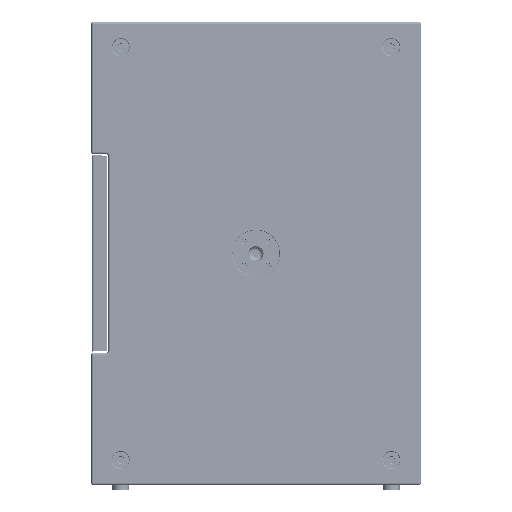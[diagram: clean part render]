
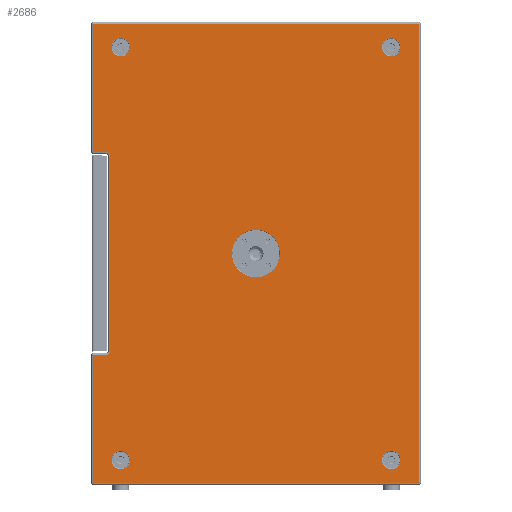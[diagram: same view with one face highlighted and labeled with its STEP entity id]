
A CAD part, top view. The second image highlights one B-rep face of the part: STEP entity #2686.
In plain terms, the highlighted planar face has unit normal (0, 0, 1).
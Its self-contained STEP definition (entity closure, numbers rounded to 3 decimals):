
#1724=FACE_BOUND('',#7837,.T.);
#1725=FACE_BOUND('',#7838,.T.);
#1726=FACE_BOUND('',#7839,.T.);
#1727=FACE_BOUND('',#7840,.T.);
#1728=FACE_BOUND('',#7841,.T.);
#2686=ADVANCED_FACE('',(#5195,#1724,#1725,#1726,#1727,#1728),#42023,.T.);
#5195=FACE_OUTER_BOUND('',#7836,.T.);
#7836=EDGE_LOOP('',(#13585,#13586,#13587,#13588,#13589,#13590,#13591,#13592,
#13593,#13594));
#7837=EDGE_LOOP('',(#13595,#13596));
#7838=EDGE_LOOP('',(#13597,#13598));
#7839=EDGE_LOOP('',(#13599,#13600));
#7840=EDGE_LOOP('',(#13601,#13602));
#7841=EDGE_LOOP('',(#13603,#13604));
#13585=ORIENTED_EDGE('',*,*,#25027,.F.);
#13586=ORIENTED_EDGE('',*,*,#24963,.F.);
#13587=ORIENTED_EDGE('',*,*,#24964,.F.);
#13588=ORIENTED_EDGE('',*,*,#24965,.F.);
#13589=ORIENTED_EDGE('',*,*,#24966,.F.);
#13590=ORIENTED_EDGE('',*,*,#24967,.F.);
#13591=ORIENTED_EDGE('',*,*,#24968,.F.);
#13592=ORIENTED_EDGE('',*,*,#24969,.F.);
#13593=ORIENTED_EDGE('',*,*,#25018,.F.);
#13594=ORIENTED_EDGE('',*,*,#24970,.F.);
#13595=ORIENTED_EDGE('',*,*,#25060,.F.);
#13596=ORIENTED_EDGE('',*,*,#24905,.F.);
#13597=ORIENTED_EDGE('',*,*,#24945,.F.);
#13598=ORIENTED_EDGE('',*,*,#25045,.F.);
#13599=ORIENTED_EDGE('',*,*,#24941,.F.);
#13600=ORIENTED_EDGE('',*,*,#25046,.F.);
#13601=ORIENTED_EDGE('',*,*,#24937,.F.);
#13602=ORIENTED_EDGE('',*,*,#25047,.F.);
#13603=ORIENTED_EDGE('',*,*,#24933,.F.);
#13604=ORIENTED_EDGE('',*,*,#25048,.F.);
#24905=EDGE_CURVE('',#38692,#38693,#34072,.T.);
#24933=EDGE_CURVE('',#38718,#38719,#34088,.T.);
#24937=EDGE_CURVE('',#38722,#38723,#34092,.T.);
#24941=EDGE_CURVE('',#38726,#38727,#34096,.T.);
#24945=EDGE_CURVE('',#38730,#38731,#34100,.T.);
#24963=EDGE_CURVE('',#38742,#38740,#30631,.T.);
#24964=EDGE_CURVE('',#38743,#38742,#30632,.T.);
#24965=EDGE_CURVE('',#38744,#38743,#30633,.T.);
#24966=EDGE_CURVE('',#38745,#38744,#30634,.T.);
#24967=EDGE_CURVE('',#38746,#38745,#30635,.T.);
#24968=EDGE_CURVE('',#38747,#38746,#30636,.T.);
#24969=EDGE_CURVE('',#38748,#38747,#30637,.T.);
#24970=EDGE_CURVE('',#38741,#38749,#30638,.T.);
#25018=EDGE_CURVE('',#38749,#38748,#34121,.T.);
#25027=EDGE_CURVE('',#38740,#38741,#34130,.T.);
#25045=EDGE_CURVE('',#38731,#38730,#34148,.T.);
#25046=EDGE_CURVE('',#38727,#38726,#34149,.T.);
#25047=EDGE_CURVE('',#38723,#38722,#34150,.T.);
#25048=EDGE_CURVE('',#38719,#38718,#34151,.T.);
#25060=EDGE_CURVE('',#38693,#38692,#34163,.T.);
#30631=B_SPLINE_CURVE_WITH_KNOTS('',1,(#82135,#82136),.UNSPECIFIED.,.F.,
 .F.,(2,2),(-30.,0.),.UNSPECIFIED.);
#30632=B_SPLINE_CURVE_WITH_KNOTS('',1,(#82137,#82138),.UNSPECIFIED.,.F.,
 .F.,(2,2),(-305.,0.),.UNSPECIFIED.);
#30633=B_SPLINE_CURVE_WITH_KNOTS('',1,(#82139,#82140),.UNSPECIFIED.,.F.,
 .F.,(2,2),(-775.,0.),.UNSPECIFIED.);
#30634=B_SPLINE_CURVE_WITH_KNOTS('',1,(#82141,#82142),.UNSPECIFIED.,.F.,
 .F.,(2,2),(-1094.,0.),.UNSPECIFIED.);
#30635=B_SPLINE_CURVE_WITH_KNOTS('',1,(#82143,#82144),.UNSPECIFIED.,.F.,
 .F.,(2,2),(-775.,0.),.UNSPECIFIED.);
#30636=B_SPLINE_CURVE_WITH_KNOTS('',1,(#82145,#82146),.UNSPECIFIED.,.F.,
 .F.,(2,2),(-305.,0.),.UNSPECIFIED.);
#30637=B_SPLINE_CURVE_WITH_KNOTS('',1,(#82147,#82148),.UNSPECIFIED.,.F.,
 .F.,(2,2),(-30.,0.),.UNSPECIFIED.);
#30638=B_SPLINE_CURVE_WITH_KNOTS('',1,(#82149,#82150),.UNSPECIFIED.,.F.,
 .F.,(2,2),(-464.,0.),.UNSPECIFIED.);
#34072=TRIMMED_CURVE($,#36116,(#81982),(#81983),.T.,.CARTESIAN.);
#34088=TRIMMED_CURVE($,#36132,(#82054),(#82055),.T.,.CARTESIAN.);
#34092=TRIMMED_CURVE($,#36136,(#82066),(#82067),.T.,.CARTESIAN.);
#34096=TRIMMED_CURVE($,#36140,(#82078),(#82079),.T.,.CARTESIAN.);
#34100=TRIMMED_CURVE($,#36144,(#82090),(#82091),.T.,.CARTESIAN.);
#34121=TRIMMED_CURVE($,#36165,(#82257),(#82258),.T.,.CARTESIAN.);
#34130=TRIMMED_CURVE($,#36174,(#82284),(#82285),.T.,.CARTESIAN.);
#34148=TRIMMED_CURVE($,#36192,(#82338),(#82339),.T.,.CARTESIAN.);
#34149=TRIMMED_CURVE($,#36193,(#82341),(#82342),.T.,.CARTESIAN.);
#34150=TRIMMED_CURVE($,#36194,(#82344),(#82345),.T.,.CARTESIAN.);
#34151=TRIMMED_CURVE($,#36195,(#82347),(#82348),.T.,.CARTESIAN.);
#34163=TRIMMED_CURVE($,#36207,(#82383),(#82384),.T.,.CARTESIAN.);
#36116=CIRCLE('',#46553,57.);
#36132=CIRCLE('',#46569,22.);
#36136=CIRCLE('',#46573,22.);
#36140=CIRCLE('',#46577,22.);
#36144=CIRCLE('',#46581,22.);
#36165=CIRCLE('',#46602,10.);
#36174=CIRCLE('',#46611,10.);
#36192=CIRCLE('',#46629,22.);
#36193=CIRCLE('',#46630,22.);
#36194=CIRCLE('',#46631,22.);
#36195=CIRCLE('',#46632,22.);
#36207=CIRCLE('',#46644,57.);
#38692=VERTEX_POINT('',#81809);
#38693=VERTEX_POINT('',#81810);
#38718=VERTEX_POINT('',#81835);
#38719=VERTEX_POINT('',#81836);
#38722=VERTEX_POINT('',#81839);
#38723=VERTEX_POINT('',#81840);
#38726=VERTEX_POINT('',#81843);
#38727=VERTEX_POINT('',#81844);
#38730=VERTEX_POINT('',#81847);
#38731=VERTEX_POINT('',#81848);
#38740=VERTEX_POINT('',#81857);
#38741=VERTEX_POINT('',#81858);
#38742=VERTEX_POINT('',#81859);
#38743=VERTEX_POINT('',#81860);
#38744=VERTEX_POINT('',#81861);
#38745=VERTEX_POINT('',#81862);
#38746=VERTEX_POINT('',#81863);
#38747=VERTEX_POINT('',#81864);
#38748=VERTEX_POINT('',#81865);
#38749=VERTEX_POINT('',#81866);
#42023=PLANE('',#46489);
#46489=AXIS2_PLACEMENT_3D('',#80824,#51324,$);
#46553=AXIS2_PLACEMENT_3D($,#81981,#51402,#51403);
#46569=AXIS2_PLACEMENT_3D($,#82053,#51434,#51435);
#46573=AXIS2_PLACEMENT_3D($,#82065,#51442,#51443);
#46577=AXIS2_PLACEMENT_3D($,#82077,#51450,#51451);
#46581=AXIS2_PLACEMENT_3D($,#82089,#51458,#51459);
#46602=AXIS2_PLACEMENT_3D($,#82256,#51500,#51501);
#46611=AXIS2_PLACEMENT_3D($,#82283,#51518,#51519);
#46629=AXIS2_PLACEMENT_3D($,#82337,#51554,#51555);
#46630=AXIS2_PLACEMENT_3D($,#82340,#51556,#51557);
#46631=AXIS2_PLACEMENT_3D($,#82343,#51558,#51559);
#46632=AXIS2_PLACEMENT_3D($,#82346,#51560,#51561);
#46644=AXIS2_PLACEMENT_3D($,#82382,#51584,#51585);
#51324=DIRECTION('',(0.,0.,1.));
#51402=DIRECTION('',(0.,0.,1.));
#51403=DIRECTION('',(1.,0.,0.));
#51434=DIRECTION('',(0.,0.,1.));
#51435=DIRECTION('',(1.,0.,0.));
#51442=DIRECTION('',(0.,0.,1.));
#51443=DIRECTION('',(1.,0.,0.));
#51450=DIRECTION('',(0.,0.,1.));
#51451=DIRECTION('',(1.,0.,0.));
#51458=DIRECTION('',(0.,0.,1.));
#51459=DIRECTION('',(1.,0.,0.));
#51500=DIRECTION('',(0.,0.,1.));
#51501=DIRECTION('',(1.,0.,0.));
#51518=DIRECTION('',(0.,0.,1.));
#51519=DIRECTION('',(0.,-1.,0.));
#51554=DIRECTION('',(0.,0.,1.));
#51555=DIRECTION('',(-1.,0.,0.));
#51556=DIRECTION('',(0.,0.,1.));
#51557=DIRECTION('',(-1.,0.,0.));
#51558=DIRECTION('',(0.,0.,1.));
#51559=DIRECTION('',(-1.,0.,0.));
#51560=DIRECTION('',(0.,0.,1.));
#51561=DIRECTION('',(-1.,0.,0.));
#51584=DIRECTION('',(0.,0.,1.));
#51585=DIRECTION('',(-1.,0.,0.));
#80824=CARTESIAN_POINT('',(459.5,-656.4,190.5));
#81809=CARTESIAN_POINT('',(51.5,0.,190.5));
#81810=CARTESIAN_POINT('',(-62.5,0.,190.5));
#81835=CARTESIAN_POINT('',(339.,492.,190.5));
#81836=CARTESIAN_POINT('',(295.,492.,190.5));
#81839=CARTESIAN_POINT('',(-306.,492.,190.5));
#81840=CARTESIAN_POINT('',(-350.,492.,190.5));
#81843=CARTESIAN_POINT('',(339.,-492.,190.5));
#81844=CARTESIAN_POINT('',(295.,-492.,190.5));
#81847=CARTESIAN_POINT('',(-306.,-492.,190.5));
#81848=CARTESIAN_POINT('',(-350.,-492.,190.5));
#81857=CARTESIAN_POINT('',(-363.,-242.,190.5));
#81858=CARTESIAN_POINT('',(-353.,-232.,190.5));
#81859=CARTESIAN_POINT('',(-393.,-242.,190.5));
#81860=CARTESIAN_POINT('',(-393.,-547.,190.5));
#81861=CARTESIAN_POINT('',(382.,-547.,190.5));
#81862=CARTESIAN_POINT('',(382.,547.,190.5));
#81863=CARTESIAN_POINT('',(-393.,547.,190.5));
#81864=CARTESIAN_POINT('',(-393.,242.,190.5));
#81865=CARTESIAN_POINT('',(-363.,242.,190.5));
#81866=CARTESIAN_POINT('',(-353.,232.,190.5));
#81981=CARTESIAN_POINT('',(-5.5,0.,190.5));
#81982=CARTESIAN_POINT('',(51.5,0.,190.5));
#81983=CARTESIAN_POINT('',(-62.5,0.,190.5));
#82053=CARTESIAN_POINT('',(317.,492.,190.5));
#82054=CARTESIAN_POINT('',(339.,492.,190.5));
#82055=CARTESIAN_POINT('',(295.,492.,190.5));
#82065=CARTESIAN_POINT('',(-328.,492.,190.5));
#82066=CARTESIAN_POINT('',(-306.,492.,190.5));
#82067=CARTESIAN_POINT('',(-350.,492.,190.5));
#82077=CARTESIAN_POINT('',(317.,-492.,190.5));
#82078=CARTESIAN_POINT('',(339.,-492.,190.5));
#82079=CARTESIAN_POINT('',(295.,-492.,190.5));
#82089=CARTESIAN_POINT('',(-328.,-492.,190.5));
#82090=CARTESIAN_POINT('',(-306.,-492.,190.5));
#82091=CARTESIAN_POINT('',(-350.,-492.,190.5));
#82135=CARTESIAN_POINT('',(-393.,-242.,190.5));
#82136=CARTESIAN_POINT('',(-363.,-242.,190.5));
#82137=CARTESIAN_POINT('',(-393.,-547.,190.5));
#82138=CARTESIAN_POINT('',(-393.,-242.,190.5));
#82139=CARTESIAN_POINT('',(382.,-547.,190.5));
#82140=CARTESIAN_POINT('',(-393.,-547.,190.5));
#82141=CARTESIAN_POINT('',(382.,547.,190.5));
#82142=CARTESIAN_POINT('',(382.,-547.,190.5));
#82143=CARTESIAN_POINT('',(-393.,547.,190.5));
#82144=CARTESIAN_POINT('',(382.,547.,190.5));
#82145=CARTESIAN_POINT('',(-393.,242.,190.5));
#82146=CARTESIAN_POINT('',(-393.,547.,190.5));
#82147=CARTESIAN_POINT('',(-363.,242.,190.5));
#82148=CARTESIAN_POINT('',(-393.,242.,190.5));
#82149=CARTESIAN_POINT('',(-353.,-232.,190.5));
#82150=CARTESIAN_POINT('',(-353.,232.,190.5));
#82256=CARTESIAN_POINT('',(-363.,232.,190.5));
#82257=CARTESIAN_POINT('',(-353.,232.,190.5));
#82258=CARTESIAN_POINT('',(-363.,242.,190.5));
#82283=CARTESIAN_POINT('',(-363.,-232.,190.5));
#82284=CARTESIAN_POINT('',(-363.,-242.,190.5));
#82285=CARTESIAN_POINT('',(-353.,-232.,190.5));
#82337=CARTESIAN_POINT('',(-328.,-492.,190.5));
#82338=CARTESIAN_POINT('',(-350.,-492.,190.5));
#82339=CARTESIAN_POINT('',(-306.,-492.,190.5));
#82340=CARTESIAN_POINT('',(317.,-492.,190.5));
#82341=CARTESIAN_POINT('',(295.,-492.,190.5));
#82342=CARTESIAN_POINT('',(339.,-492.,190.5));
#82343=CARTESIAN_POINT('',(-328.,492.,190.5));
#82344=CARTESIAN_POINT('',(-350.,492.,190.5));
#82345=CARTESIAN_POINT('',(-306.,492.,190.5));
#82346=CARTESIAN_POINT('',(317.,492.,190.5));
#82347=CARTESIAN_POINT('',(295.,492.,190.5));
#82348=CARTESIAN_POINT('',(339.,492.,190.5));
#82382=CARTESIAN_POINT('',(-5.5,0.,190.5));
#82383=CARTESIAN_POINT('',(-62.5,0.,190.5));
#82384=CARTESIAN_POINT('',(51.5,0.,190.5));
